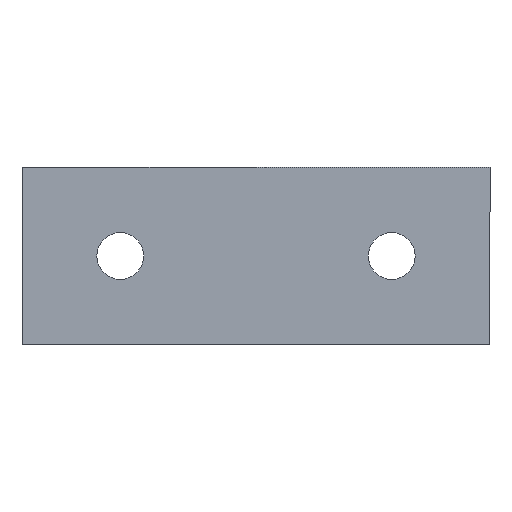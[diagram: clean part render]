
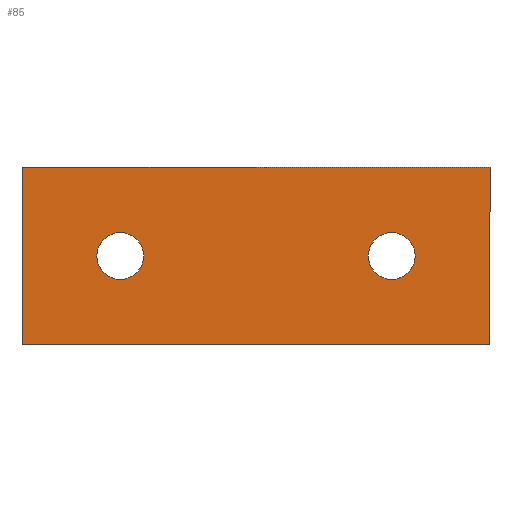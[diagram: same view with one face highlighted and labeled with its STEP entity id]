
A CAD part, front view. The second image highlights one B-rep face of the part: STEP entity #85.
In plain terms, the highlighted planar face has unit normal (0, -1, 0).
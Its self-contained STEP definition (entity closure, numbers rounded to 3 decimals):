
#1 = ORIENTED_EDGE ( 'NONE', *, *, #61, .F. ) ;
#3 = VERTEX_POINT ( 'NONE', #133 ) ;
#4 = VERTEX_POINT ( 'NONE', #132 ) ;
#6 = ORIENTED_EDGE ( 'NONE', *, *, #76, .F. ) ;
#15 = VERTEX_POINT ( 'NONE', #308 ) ;
#21 = EDGE_CURVE ( 'NONE', #3, #4, #197, .T. ) ;
#22 = VERTEX_POINT ( 'NONE', #202 ) ;
#23 = VERTEX_POINT ( 'NONE', #314 ) ;
#29 = ORIENTED_EDGE ( 'NONE', *, *, #106, .F. ) ;
#30 = ORIENTED_EDGE ( 'NONE', *, *, #75, .F. ) ;
#43 = EDGE_CURVE ( 'NONE', #4, #3, #293, .T. ) ;
#44 = EDGE_LOOP ( 'NONE', ( #29, #1, #30, #6 ) ) ;
#46 = ORIENTED_EDGE ( 'NONE', *, *, #21, .T. ) ;
#47 = CARTESIAN_POINT ( 'NONE',  ( -25., 0., 9.5 ) ) ;
#48 = DIRECTION ( 'NONE',  ( 0., 0., 1. ) ) ;
#49 = PLANE ( 'NONE',  #51 ) ;
#50 = DIRECTION ( 'NONE',  ( 0., 1., 0. ) ) ;
#51 = AXIS2_PLACEMENT_3D ( 'NONE', #47, #50, #48 ) ;
#54 = VERTEX_POINT ( 'NONE', #284 ) ;
#59 = VERTEX_POINT ( 'NONE', #315 ) ;
#61 = EDGE_CURVE ( 'NONE', #54, #15, #186, .T. ) ;
#75 = EDGE_CURVE ( 'NONE', #59, #54, #174, .T. ) ;
#76 = EDGE_CURVE ( 'NONE', #101, #59, #182, .T. ) ;
#81 = ORIENTED_EDGE ( 'NONE', *, *, #84, .T. ) ;
#82 = ORIENTED_EDGE ( 'NONE', *, *, #91, .T. ) ;
#83 = EDGE_LOOP ( 'NONE', ( #116, #46 ) ) ;
#84 = EDGE_CURVE ( 'NONE', #23, #22, #170, .T. ) ;
#85 = ADVANCED_FACE ( 'NONE', ( #164, #166, #213 ), #49, .F. ) ;
#86 = EDGE_LOOP ( 'NONE', ( #81, #82 ) ) ;
#91 = EDGE_CURVE ( 'NONE', #22, #23, #405, .T. ) ;
#101 = VERTEX_POINT ( 'NONE', #406 ) ;
#106 = EDGE_CURVE ( 'NONE', #15, #101, #386, .T. ) ;
#116 = ORIENTED_EDGE ( 'NONE', *, *, #43, .T. ) ;
#132 = CARTESIAN_POINT ( 'NONE',  ( 14.5, 0., 2.5 ) ) ;
#133 = CARTESIAN_POINT ( 'NONE',  ( 14.5, 0., -2.5 ) ) ;
#156 = DIRECTION ( 'NONE',  ( 0., 1., 0. ) ) ;
#163 = CARTESIAN_POINT ( 'NONE',  ( -14.5, 0., 0. ) ) ;
#164 = FACE_BOUND ( 'NONE', #86, .T. ) ;
#165 = AXIS2_PLACEMENT_3D ( 'NONE', #163, #156, #212 ) ;
#166 = FACE_BOUND ( 'NONE', #83, .T. ) ;
#167 = DIRECTION ( 'NONE',  ( 1., 0., 0. ) ) ;
#168 = VECTOR ( 'NONE', #167, 1000. ) ;
#169 = CARTESIAN_POINT ( 'NONE',  ( -25., 0., 9.5 ) ) ;
#170 = CIRCLE ( 'NONE', #165, 2.5 ) ;
#171 = DIRECTION ( 'NONE',  ( 0., 0., -1. ) ) ;
#172 = VECTOR ( 'NONE', #171, 1000. ) ;
#173 = CARTESIAN_POINT ( 'NONE',  ( 25., 0., -9.5 ) ) ;
#174 = LINE ( 'NONE', #173, #172 ) ;
#182 = LINE ( 'NONE', #169, #168 ) ;
#186 = LINE ( 'NONE', #244, #241 ) ;
#189 = DIRECTION ( 'NONE',  ( 0., 1., 0. ) ) ;
#190 = CARTESIAN_POINT ( 'NONE',  ( 14.5, 0., 0. ) ) ;
#191 = AXIS2_PLACEMENT_3D ( 'NONE', #190, #189, #291 ) ;
#192 = DIRECTION ( 'NONE',  ( 0., 0., 1. ) ) ;
#196 = CARTESIAN_POINT ( 'NONE',  ( 14.5, 0., 0. ) ) ;
#197 = CIRCLE ( 'NONE', #322, 2.5 ) ;
#202 = CARTESIAN_POINT ( 'NONE',  ( -14.5, 0., -2.5 ) ) ;
#212 = DIRECTION ( 'NONE',  ( 0., 0., 1. ) ) ;
#213 = FACE_OUTER_BOUND ( 'NONE', #44, .T. ) ;
#241 = VECTOR ( 'NONE', #243, 1000. ) ;
#243 = DIRECTION ( 'NONE',  ( -1., 0., 0. ) ) ;
#244 = CARTESIAN_POINT ( 'NONE',  ( -25., 0., -9.5 ) ) ;
#269 = DIRECTION ( 'NONE',  ( 0., 1., 0. ) ) ;
#284 = CARTESIAN_POINT ( 'NONE',  ( 25., 0., -9.5 ) ) ;
#291 = DIRECTION ( 'NONE',  ( 0., 0., 1. ) ) ;
#293 = CIRCLE ( 'NONE', #191, 2.5 ) ;
#308 = CARTESIAN_POINT ( 'NONE',  ( -25., 0., -9.5 ) ) ;
#314 = CARTESIAN_POINT ( 'NONE',  ( -14.5, 0., 2.5 ) ) ;
#315 = CARTESIAN_POINT ( 'NONE',  ( 25., 0., 9.5 ) ) ;
#322 = AXIS2_PLACEMENT_3D ( 'NONE', #196, #269, #192 ) ;
#345 = AXIS2_PLACEMENT_3D ( 'NONE', #391, #382, #366 ) ;
#357 = DIRECTION ( 'NONE',  ( 0., 0., 1. ) ) ;
#358 = VECTOR ( 'NONE', #357, 1000. ) ;
#366 = DIRECTION ( 'NONE',  ( 0., 0., 1. ) ) ;
#382 = DIRECTION ( 'NONE',  ( 0., 1., 0. ) ) ;
#385 = CARTESIAN_POINT ( 'NONE',  ( -25., 0., -9.5 ) ) ;
#386 = LINE ( 'NONE', #385, #358 ) ;
#391 = CARTESIAN_POINT ( 'NONE',  ( -14.5, 0., 0. ) ) ;
#405 = CIRCLE ( 'NONE', #345, 2.5 ) ;
#406 = CARTESIAN_POINT ( 'NONE',  ( -25., 0., 9.5 ) ) ;
